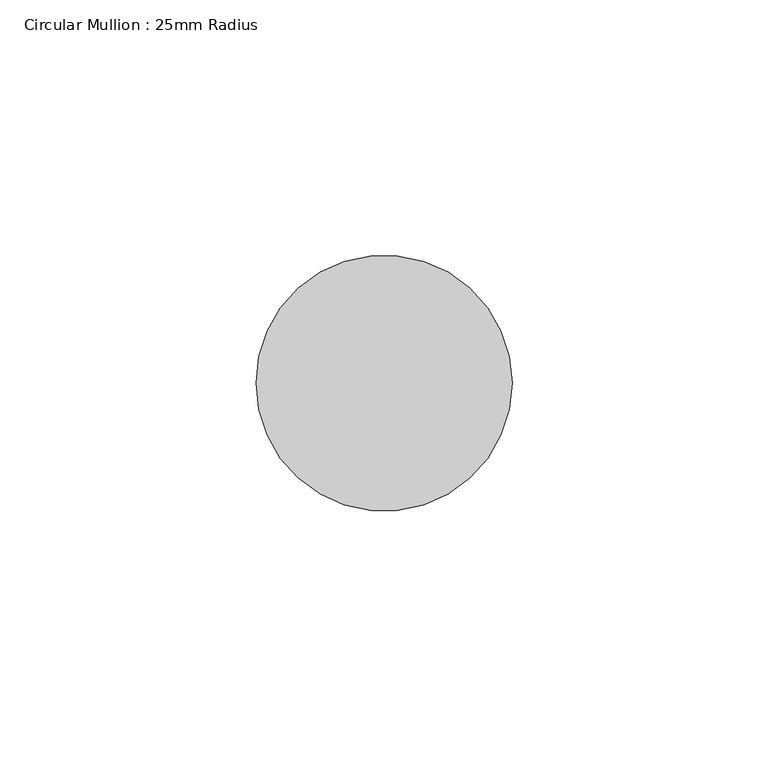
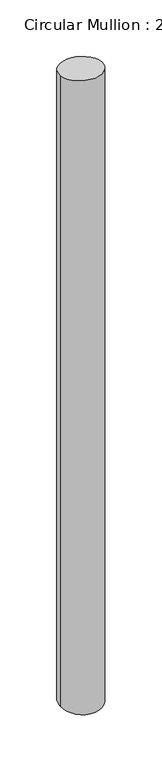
"""IFC4 building model written with IfcOpenShell, lengths in millimetres: member geometry, Circular Mullion : 25mm Radius."""

from ifc_helpers import new_model, si_unit, frame, origin, place, context, project, spatial, ellipse_curve, source, transform, mapped, element, save
from ifc_brep_helpers import plane_surface, cylinder_surface, advanced_brep


def circular_mullion_25mm_radius_7246b462(model_context):
    return source(origin(), model_context, "Body", "AdvancedBrep", [
        advanced_brep(
        [(-50.0, 0.0, 0.0), (0.0, 0.0, 0.0), (0.0, 0.0, -800.0), (-50.0, 0.0, -800.0)],
        [
            (0, 1, ellipse_curve(frame((-25.0, 0.0, 0.0), z_axis=(0.0, -0.09349284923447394, -0.9956199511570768), x_axis=(0.0, -0.9956199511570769, 0.09349284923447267)), 25.109983, 25.0)),
            (1, 2),
            (2, 3, ellipse_curve(frame((-25.0, 0.0, -800.0), z_axis=(0.0, -0.09733196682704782, 0.9952519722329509), x_axis=(0.0, 0.9952519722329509, 0.09733196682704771)), 25.119267, 25.0)),
            (3, 0),
            (1, 0, ellipse_curve(frame((-25.0, 0.0, 0.0), z_axis=(0.0, -0.09349284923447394, -0.9956199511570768), x_axis=(0.0, -0.9956199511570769, 0.09349284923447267)), 25.109983, 25.0)),
            (3, 2, ellipse_curve(frame((-25.0, 0.0, -800.0), z_axis=(0.0, -0.09733196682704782, 0.9952519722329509), x_axis=(0.0, 0.9952519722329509, 0.09733196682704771)), 25.119267, 25.0)),
        ],
        [
            cylinder_surface(frame((-25.0, 0.0, 0.0), z_axis=(0.0, 0.0, 1.0), x_axis=(1.0, 0.0, 0.0)), 25.0),
            plane_surface(frame((-304.8, 0.0, 0.0), z_axis=(0.0, 0.09349284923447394, 0.9956199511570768), x_axis=(0.0, 0.9956199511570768, -0.09349284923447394))),
            plane_surface(frame((-304.8, 0.0, -800.0), z_axis=(0.0, 0.09733196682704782, -0.9952519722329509), x_axis=(0.0, 0.9952519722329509, 0.09733196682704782))),
        ],
        [
            (0, [[1, 2, 3, 4]]),
            (0, [[5, -4, 6, -2]]),
            (1, [[-1, -5]]),
            (2, [[-6, -3]]),
        ],
    ),
    ])


if __name__ == "__main__":
    model = new_model("IFC4")
    model_context = context("Model", 3, world=origin())
    ifc_project = project(units=[si_unit("LENGTHUNIT", "METRE", prefix="MILLI")], contexts=[model_context])
    site = spatial("IfcSite", under=ifc_project)
    building = spatial("IfcBuilding", under=site)
    placement = place(None, origin())
    circular_mullion_25mm_radius_shape = circular_mullion_25mm_radius_7246b462(model_context)
    element("IfcMember", 1, ObjectType="Circular Mullion : 25mm Radius", at=placement, inside=building, context=model_context, shape_type="MappedRepresentation", body=[
        mapped(circular_mullion_25mm_radius_shape, transform((0.0, 0.0, 0.0), x_axis=(1.0, 0.0, 0.0), y_axis=(0.0, 1.0, 0.0), z_axis=(0.0, 0.0, 1.0))),
    ])
    save(model, "model.ifc")
